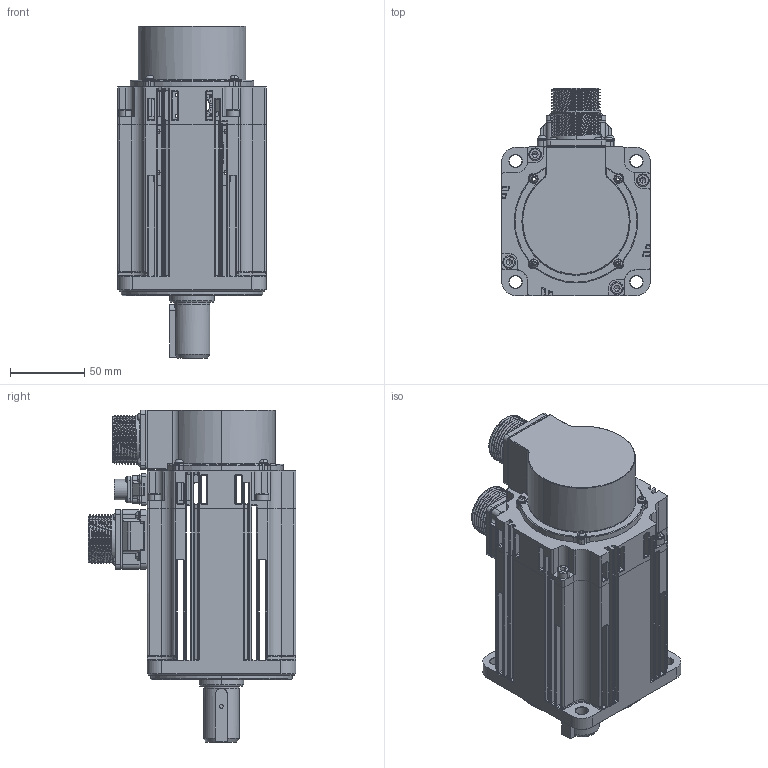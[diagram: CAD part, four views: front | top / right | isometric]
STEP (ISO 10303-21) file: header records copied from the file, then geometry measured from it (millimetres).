
FILE_DESCRIPTION (( 'STEP AP214' ), '1' );
FILE_NAME ('口100 1.5kW刹车电机（雷赛）.STEP', '2024-09-18T07:52:20', ( '' ), ( '' ), 'SwSTEP 2.0', 'SolidWorks 2021', '' );
FILE_SCHEMA (( 'AUTOMOTIVE_DESIGN' ));
Length unit declared in the file: millimetre
Products named in the file (1): 口100 1.5kW刹车电机（雷赛）
Bounding box: 100 x 139.5 x 223.2 mm (x, y, z)
Surface area: 137648.1 mm2 (no closed solid volume)
Topology: 0 solids, 90 shells, 1969 faces, 5670 edges, 3683 vertices
Faces by surface type: cylinder 836, plane 593, torus 368, sphere 86, cone 56, bspline 30
Entity records: 89321 total; most frequent: CARTESIAN_POINT 16000, DIRECTION 12025, ORIENTED_EDGE 9337, EDGE_CURVE 5594, AXIS2_PLACEMENT_3D 4752, VERTEX_POINT 3655, CIRCLE 2812, LINE 2521
